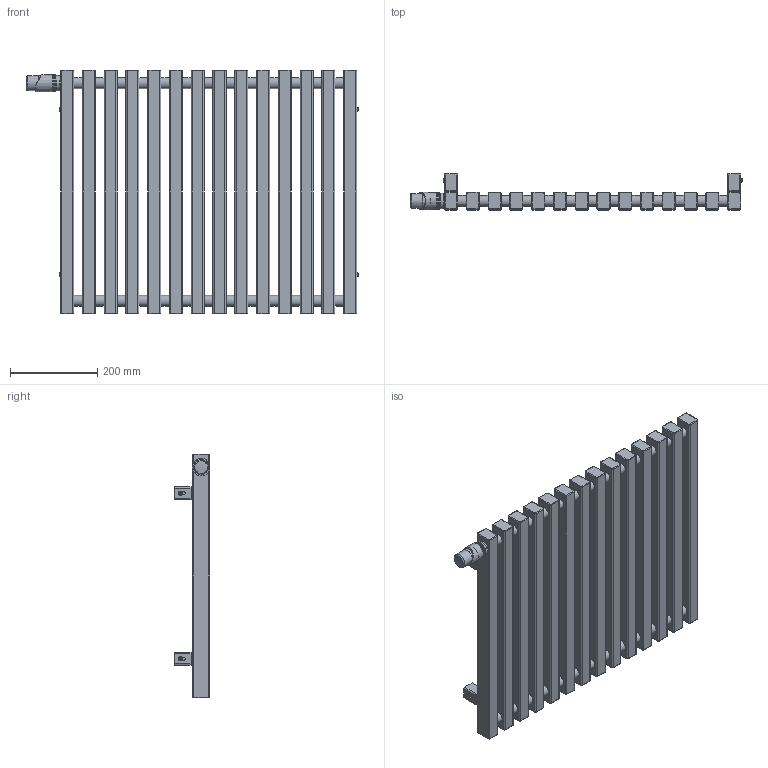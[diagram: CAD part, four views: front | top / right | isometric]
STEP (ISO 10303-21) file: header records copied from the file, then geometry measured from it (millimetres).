
FILE_DESCRIPTION((''),'2;1');
FILE_NAME('Z:\R\G\P\RGP029 - Grzejnik Triga ( ZET)\Work\Inventor\Triga v1.1\Marketing\AutoCad 3D\G-TR-XX-MK-XX-56-68-VL.stp','2012-07-26T13:19:26',('DawPi'),(''),'Autodesk Inventor 2012','Autodesk Inventor 2012','');
FILE_SCHEMA(('AUTOMOTIVE_DESIGN { 1 0 10303 214 1 1 1 1 }'));
Length unit declared in the file: millimetre
Products named in the file (4): G-TR-XX-MK-XX-56-68-VL; MMT42; A40300A
Assembly tree (6 placements, depth 2):
  G-TR-XX-MK-XX-56-68-VL
    G-TR-XX-MK-XX-56-68-VL
    MMT42  x4
    A40300A
Bounding box: 762.26 x 82 x 560 mm (x, y, z)
Volume: 9817031 mm3; surface area: 1157181.9 mm2
Topology: 6 solids, 7 shells, 657 faces, 1454 edges, 879 vertices
Faces by surface type: cylinder 273, plane 231, bspline 113, cone 25, torus 14, sphere 1
Full cylindrical faces by diameter (mm): 4 x1, 4.134 x4, 4.509 x4, 5 x1, 10 x5, 11.445 x1, 12 x4, 18.631 x2, 25 x26, 26.211 x1, 28 x1, 30 x1, 31 x1, 33.8 x1, 34 x2, 35 x3, 36 x4, 38 x3
Entity records: 22620 total; most frequent: CARTESIAN_POINT 11322, DIRECTION 2494, ORIENTED_EDGE 2100, EDGE_CURVE 1050, AXIS2_PLACEMENT_3D 1029, EDGE_LOOP 680, VERTEX_POINT 664, CIRCLE 608
